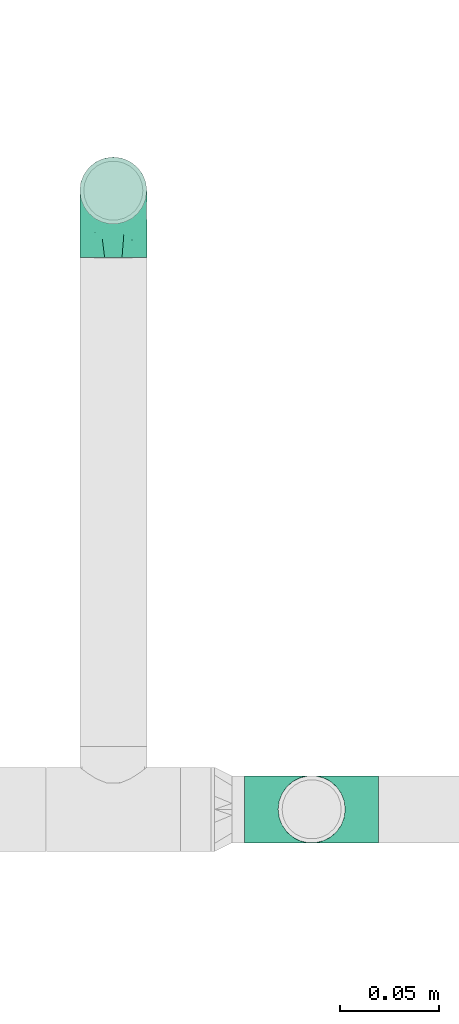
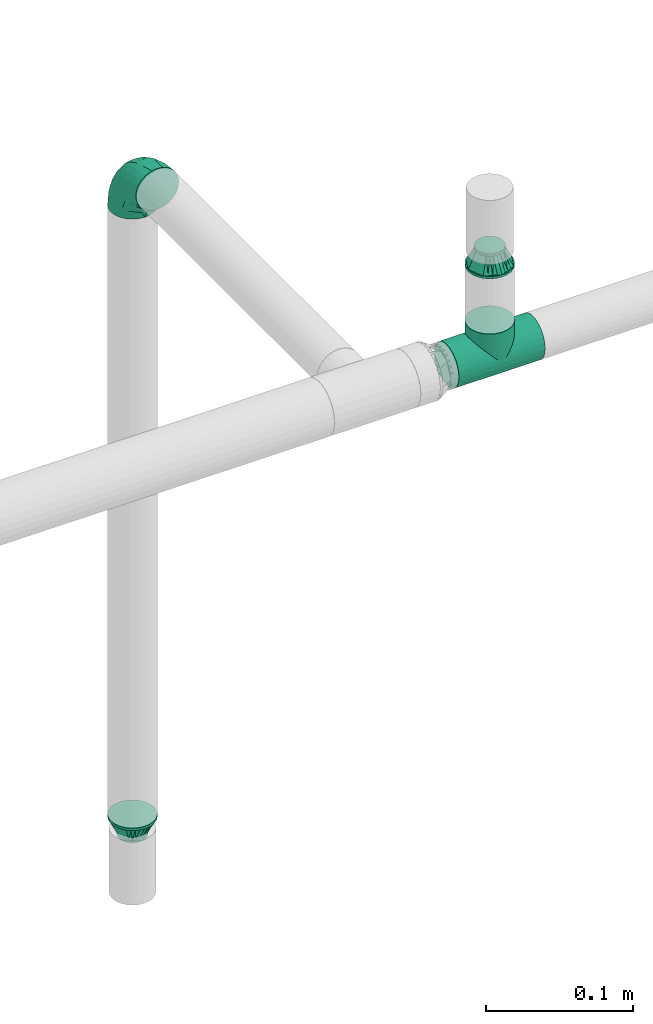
# One storey, part 41 of 51: 4 flow fittings.
"""IFC2X3 building model written with IfcOpenShell, lengths in millimetres."""

from ifc_helpers import new_model, entity, si_unit, converted_unit, derived_unit, direction, frame, origin_with_axes, place, context, subcontext, project, spatial, open_shell, surface_model, source, transform, mapped, type_object, element, save


model = new_model("IFC2X3")

# Units and contexts
model_context = context("Model", 3, precision=0.01, world=frame((0.0, 4.29681676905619e-09, 0.0)), true_north=direction((4.01073788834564e-13, 1.0)))
plan_context = context("Plan", 3, precision=0.01, world=frame((0.0, 4.29681676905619e-09, 0.0)), true_north=direction((4.01073788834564e-13, 1.0)))
body_context = subcontext(model_context, "Body", "Model", "MODEL_VIEW")
ifc_project = project(units=[converted_unit("PLANEANGLEUNIT", "DEGREE", entity("IfcPositiveLengthMeasure", 0.0174532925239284), si_unit("PLANEANGLEUNIT", "RADIAN"), dimensions=[0, 0, 0, 0, 0, 0, 0]), si_unit("AREAUNIT", "SQUARE_METRE"), si_unit("LENGTHUNIT", "METRE", prefix="MILLI"), si_unit("MASSUNIT", "GRAM", prefix="KILO"), si_unit("POWERUNIT", "WATT"), si_unit("PRESSUREUNIT", "PASCAL"), si_unit("FORCEUNIT", "NEWTON", prefix="KILO"), si_unit("ELECTRICVOLTAGEUNIT", "VOLT"), si_unit("ELECTRICCURRENTUNIT", "AMPERE"), si_unit("THERMODYNAMICTEMPERATUREUNIT", "DEGREE_CELSIUS"), si_unit("TIMEUNIT", "SECOND"), si_unit("VOLUMEUNIT", "CUBIC_METRE"), derived_unit("LINEARVELOCITYUNIT", [(si_unit("LENGTHUNIT", "METRE"), 1), (si_unit("TIMEUNIT", "SECOND"), -1)]), derived_unit("VOLUMETRICFLOWRATEUNIT", [(si_unit("VOLUMEUNIT", "CUBIC_METRE"), 1), (si_unit("TIMEUNIT", "SECOND"), -1)]), derived_unit("THERMALTRANSMITTANCEUNIT", [(si_unit("POWERUNIT", "WATT"), 1), (si_unit("THERMODYNAMICTEMPERATUREUNIT", "KELVIN"), -1), (si_unit("AREAUNIT", "SQUARE_METRE"), -1)]), derived_unit("SOUNDPRESSUREUNIT", [(si_unit("PRESSUREUNIT", "PASCAL"), 1)])], contexts=[model_context, plan_context])

# Site, building, storey
site_placement = place(None, frame((0.0, -4.29681676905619e-09, 0.0), z_axis=(0.0, 0.0, 1.0), x_axis=(1.0, 0.0, 0.0)))
site = spatial("IfcSite", under=ifc_project, at=site_placement, Name="ENGM", CompositionType="ELEMENT")
building_placement = place(site_placement, frame((0.0, 4.29681676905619e-09, 0.0), z_axis=(0.0, 0.0, 1.0), x_axis=(1.0, 0.0, 0.0)))
building = spatial("IfcBuilding", under=site, at=building_placement, Name="TH", CompositionType="ELEMENT")
storey_placement = place(building_placement, frame((0.0, 0.0, 210200.0), z_axis=(0.0, 0.0, 1.0), x_axis=(1.0, 0.0, 0.0)))
storey = spatial("IfcBuildingStorey", under=building, at=storey_placement, Name="Nivå F - 0,7 m", CompositionType="ELEMENT", Elevation=210200.0)

# Flow fittings
pipe_fitting_type_1 = type_object("IfcPipeFittingType", Name="magi_pipe_fe_elbow_short_001", PredefinedType="BEND")
shared_shape_1 = source(origin_with_axes(), body_context, "Body", "SurfaceModel", [
    surface_model("IfcShellBasedSurfaceModel", [(-33.8, 8.45, -14.63583), (-33.8, 4.37404, -16.32415), (-33.8, 11.9501, -11.9501), (-33.8, -11.9501, -11.9501), (-33.8, -14.63583, -8.45), (-33.8, -8.45, -14.63583), (-33.8, 0.0, -16.9), (-33.8, -4.37404, -16.32415), (-33.8, -4.37404, 16.32415), (-33.8, 0.0, 16.9), (-33.8, -8.45, 14.63583), (-33.8, 16.32415, -4.37404), (-33.8, 14.63583, -8.45), (-33.8, -16.32415, -4.37404), (-33.8, -16.9, 0.0), (-33.8, -16.32415, 4.37404), (-33.8, 11.9501, 11.9501), (-33.8, 14.63583, 8.45), (-33.8, 16.32415, 4.37404), (-33.8, 4.37404, 16.32415), (-33.8, 8.45, 14.63583), (-33.8, -14.63583, 8.45), (-33.8, -11.9501, 11.9501), (-33.8, 16.9, 0.0), (-11.9501, 33.8, -11.9501), (0.0, 33.8, -16.9), (-4.37404, 33.8, -16.32415), (-8.45, 33.8, -14.63583), (-14.63583, 33.8, -8.45), (-16.32415, 33.8, -4.37404), (14.63583, 33.8, -8.45), (8.45, 33.8, 14.63583), (16.32415, 33.8, -4.37404), (8.45, 33.8, -14.63583), (11.9501, 33.8, -11.9501), (4.37404, 33.8, -16.32415), (16.32415, 33.8, 4.37404), (16.9, 33.8, 0.0), (-11.9501, 33.8, 11.9501), (-16.32415, 33.8, 4.37404), (-14.63583, 33.8, 8.45), (-8.45, 33.8, 14.63583), (-4.37404, 33.8, 16.32415), (11.9501, 33.8, 11.9501), (14.63583, 33.8, 8.45), (0.0, 33.8, 16.9), (4.37404, 33.8, 16.32415), (-16.9, 33.8, 0.0), (-24.79389, -13.12945, 9.48721), (-22.19287, -9.75018, 12.59315), (-24.09897, -14.97035, 0.0), (-14.93934, -10.76256, 8.5297), (-22.46095, -14.75051, 5.27077), (14.75051, 22.46094, 5.27077), (11.9251, 13.23888, 4.33236), (13.04069, 14.39795, 0.0), (7.71387, 13.68847, 11.55891), (9.75018, 22.19287, 12.59315), (4.10169, 13.0571, 14.04018), (-24.84007, -6.39063, 15.2048), (-25.81779, -2.23879, 16.61097), (-23.66549, 2.59054, 16.87119), (-26.50418, 14.06512, 11.08152), (-24.21253, 17.66365, 7.72657), (-29.58514, 15.86957, 7.00283), (-6.17382, -7.5455, 0.0), (-13.23888, -11.9251, 4.33236), (-14.39795, -13.04069, 0.0), (-17.81434, 18.87373, 11.97104), (-6.30846, 29.15138, 15.82987), (-2.31622, 25.28002, 16.85849), (-29.23923, 10.23435, 13.77053), (-1.45439, -2.85688, 7.61475), (-0.28326, 0.34872, 10.09509), (-5.74484, -4.04709, 10.4122), (-4.41137, 11.31918, 16.59407), (-8.39727, 3.10034, 15.7812), (-1.72649, 9.1306, 15.53089), (-17.39909, 24.75344, 7.64977), (-26.19233, 20.0512, 0.0), (-28.14518, 17.29657, 4.25857), (-26.05147, 6.6281, 15.96447), (-5.87354, 16.61944, 16.86968), (-12.51807, 12.51807, 16.48937), (-10.06312, 7.38516, 16.81295), (-3.01882, 3.01882, 13.81718), (-13.0571, -4.10169, 14.04018), (-16.82553, -0.15166, 16.38038), (10.76256, 14.93934, 8.5297), (13.12945, 24.79389, 9.48721), (6.39063, 24.84007, 15.2048), (2.23879, 25.81779, 16.61097), (-13.68847, -7.71387, 11.55891), (14.97035, 24.09897, 0.0), (-7.30894, 22.89991, 16.09489), (-10.67958, 26.17414, 14.008), (-12.78295, 18.26924, 15.06066), (-13.88562, 22.45231, 12.93244), (-18.04944, 15.16501, 14.04434), (-23.11658, 20.08178, 4.02986), (-21.84989, 21.84989, 0.0), (-18.55817, 25.48277, 3.93065), (-13.95142, 26.94732, 11.03289), (-18.57098, 7.23906, 16.59756), (-16.58335, 4.14122, 16.89279), (-17.96666, 11.46709, 15.63151), (-9.84453, 17.54304, 16.18938), (0.15166, 16.82553, 16.38038), (-23.27207, 11.47201, 14.23154), (3.84842, 5.86994, 10.70473), (-8.0212, -7.54413, 7.93275), (1.00345, -2.19508, 4.57414), (5.13203, 3.01004, 5.90201), (5.24161, 1.7543, 2.53265), (8.70457, 7.04947, 3.99182), (-20.0512, 26.19233, 0.0), (8.4852, 8.76699, 7.09296), (-4.55488, -6.72064, 4.90681), (2.05031, -2.05031, 0.0), (7.5455, 6.17382, 0.0), (-26.75399, 2.1369, -16.845), (-14.61995, 24.73803, -11.27736), (-28.45274, -13.45335, -9.81895), (-26.00469, 6.63555, -15.96645), (-23.06726, 20.04573, -4.26202), (-13.80647, -4.26506, -14.17873), (-14.67501, -0.21081, -16.07388), (-6.7902, -0.2828, -13.8478), (-24.53586, 11.08096, -14.13417), (-26.72048, 14.00837, -11.05776), (10.0967, 24.44989, -12.75976), (5.83237, 21.40218, -15.03047), (6.66249, 28.54238, -15.38093), (-20.38182, 15.48705, -12.74596), (12.53268, 21.23441, -9.15363), (12.54494, 15.67504, -5.54878), (9.7522, 12.89279, -8.66343), (-15.65186, 19.64213, -13.01327), (-12.03528, 20.66498, -14.67665), (-15.61907, 15.61906, -14.83879), (-25.56551, -15.26206, 0.0), (-24.65452, -15.12934, -5.50955), (13.45335, 28.45274, -9.81895), (15.12934, 24.65452, -5.50955), (-7.35442, -8.31014, -5.65563), (-15.67504, -12.54494, -5.54878), (-24.44989, -10.0967, -12.75976), (0.16522, 0.41303, -9.71728), (-5.70658, -5.33066, -8.89288), (-5.13869, -2.37198, -11.53565), (-21.23441, -12.53268, -9.15363), (0.71146, 7.93863, -14.09382), (0.21081, 14.67501, -16.07388), (3.49291, 14.42772, -14.76381), (-24.89911, -2.13088, -16.591), (-28.54238, -6.66249, -15.38093), (-18.44386, -7.71663, -13.26957), (2.13088, 24.89911, -16.591), (-28.64342, 17.44413, -2.89318), (1.70017, -1.28722, -5.09504), (-16.57067, 26.81947, -7.36596), (-17.69055, 27.4263, -3.76405), (-12.89279, -9.7522, -8.66343), (-5.96611, 5.96611, -15.95814), (-20.53709, 20.09345, -8.28985), (-2.1369, 26.75399, -16.845), (-6.89872, 24.58781, -16.02578), (-10.60739, 26.53157, -13.98044), (-21.40218, -5.83237, -15.03047), (2.93192, 5.89627, -11.55917), (6.89393, 12.61842, -11.82233), (5.58056, 5.95325, -8.79455), (-3.99512, 18.61798, -16.89635), (8.31014, 7.35442, -5.65563), (-9.1383, 9.86148, -16.89041), (-9.99983, 16.02119, -16.39699), (-16.68576, 9.78031, -16.34199), (-27.01915, 16.61158, -7.12979), (15.26206, 25.56551, 0.0), (-18.61798, 3.99512, -16.89635), (-19.37495, 27.82495, 0.0), (-12.61842, -6.89393, -11.82233), (-18.84705, 19.14018, -10.96545)], [open_shell([[[0, 1, 2]], [[3, 4, 5]], [[6, 7, 5]], [[8, 9, 10]], [[1, 6, 2]], [[11, 12, 2]], [[4, 2, 6]], [[2, 13, 10]], [[5, 4, 6]], [[2, 4, 13]], [[14, 15, 13]], [[11, 2, 16]], [[11, 17, 18]], [[11, 16, 17]], [[19, 20, 16]], [[16, 2, 10]], [[19, 16, 10]], [[21, 22, 15]], [[22, 13, 15]], [[22, 10, 13]], [[10, 9, 19]], [[11, 18, 23]], [[24, 25, 26]], [[24, 26, 27]], [[24, 28, 29]], [[25, 24, 30]], [[31, 32, 24]], [[33, 30, 34]], [[33, 35, 25]], [[25, 30, 33]], [[32, 30, 24]], [[32, 36, 37]], [[38, 24, 29]], [[39, 40, 29]], [[40, 38, 29]], [[38, 41, 42]], [[38, 31, 24]], [[31, 38, 42]], [[36, 43, 44]], [[36, 32, 43]], [[31, 45, 46]], [[32, 31, 43]], [[42, 45, 31]], [[39, 29, 47]], [[22, 48, 49]], [[15, 14, 50]], [[51, 48, 52]], [[53, 54, 55]], [[48, 22, 21]], [[15, 52, 21]], [[56, 57, 58]], [[49, 10, 22]], [[49, 59, 10]], [[9, 60, 61]], [[62, 63, 64]], [[65, 66, 67]], [[57, 43, 31]], [[62, 68, 63]], [[42, 69, 70]], [[20, 71, 16]], [[8, 60, 9]], [[72, 73, 74]], [[75, 76, 77]], [[16, 62, 17]], [[40, 39, 78]], [[79, 23, 80]], [[64, 18, 17]], [[9, 61, 19]], [[19, 81, 20]], [[82, 83, 84]], [[74, 85, 86]], [[59, 86, 87]], [[88, 89, 57]], [[90, 31, 46]], [[44, 53, 36]], [[46, 45, 91]], [[54, 53, 88]], [[44, 89, 53]], [[92, 86, 49]], [[89, 44, 43]], [[10, 59, 8]], [[53, 55, 93]], [[93, 36, 53]], [[66, 52, 67]], [[94, 82, 70]], [[95, 96, 94]], [[97, 98, 96]], [[79, 99, 100]], [[41, 38, 95]], [[101, 100, 99]], [[68, 78, 63]], [[42, 41, 69]], [[23, 18, 80]], [[95, 94, 69]], [[78, 101, 99]], [[38, 102, 95]], [[70, 45, 42]], [[97, 95, 102]], [[15, 50, 52]], [[90, 57, 31]], [[57, 90, 58]], [[81, 19, 61]], [[103, 104, 84]], [[105, 81, 103]], [[38, 40, 102]], [[106, 96, 83]], [[94, 106, 82]], [[91, 70, 107]], [[71, 62, 16]], [[62, 108, 98]], [[86, 59, 49]], [[67, 52, 50]], [[60, 59, 87]], [[92, 49, 51]], [[86, 85, 76]], [[91, 90, 46]], [[37, 36, 93]], [[107, 77, 58]], [[107, 58, 90]], [[58, 85, 109]], [[110, 74, 92]], [[72, 74, 110]], [[66, 51, 52]], [[72, 111, 112]], [[113, 114, 112]], [[56, 88, 57]], [[52, 48, 21]], [[49, 48, 51]], [[57, 89, 43]], [[53, 89, 88]], [[103, 81, 61]], [[71, 81, 108]], [[18, 64, 80]], [[63, 78, 99]], [[47, 115, 101]], [[101, 115, 100]], [[40, 78, 102]], [[68, 102, 78]], [[97, 96, 95]], [[105, 98, 108]], [[103, 84, 83]], [[107, 70, 82]], [[76, 84, 87]], [[82, 84, 75]], [[70, 91, 45]], [[90, 91, 107]], [[59, 60, 8]], [[61, 60, 87]], [[73, 85, 74]], [[109, 112, 116]], [[103, 61, 104]], [[105, 103, 83]], [[96, 105, 83]], [[81, 105, 108]], [[96, 98, 105]], [[62, 98, 68]], [[61, 87, 104]], [[87, 84, 104]], [[86, 76, 87]], [[77, 76, 85]], [[58, 77, 85]], [[75, 77, 107]], [[82, 75, 107]], [[76, 75, 84]], [[81, 71, 20]], [[62, 71, 108]], [[95, 69, 41]], [[70, 69, 94]], [[62, 64, 17]], [[80, 63, 99]], [[63, 80, 64]], [[80, 99, 79]], [[66, 65, 117]], [[110, 66, 117]], [[112, 114, 116]], [[118, 117, 65]], [[110, 92, 51]], [[112, 111, 113]], [[119, 55, 54]], [[74, 86, 92]], [[58, 109, 56]], [[116, 56, 109]], [[66, 110, 51]], [[72, 110, 117]], [[111, 72, 117]], [[73, 112, 109]], [[117, 118, 111]], [[113, 111, 118]], [[118, 119, 113]], [[114, 119, 54]], [[119, 114, 113]], [[116, 54, 88]], [[54, 116, 114]], [[116, 88, 56]], [[112, 73, 72]], [[85, 73, 109]], [[78, 39, 101]], [[47, 101, 39]], [[102, 68, 97]], [[97, 68, 98]], [[82, 106, 83]], [[94, 96, 106]], [[1, 120, 6]], [[28, 24, 121]], [[3, 122, 4]], [[0, 123, 1]], [[100, 124, 79]], [[125, 126, 127]], [[128, 2, 129]], [[130, 131, 132]], [[128, 129, 133]], [[134, 135, 136]], [[137, 138, 139]], [[128, 0, 2]], [[67, 140, 141]], [[134, 142, 143]], [[141, 13, 4]], [[144, 65, 145]], [[146, 3, 5]], [[147, 148, 149]], [[145, 141, 150]], [[151, 152, 153]], [[154, 7, 6]], [[5, 155, 146]], [[150, 146, 156]], [[155, 5, 7]], [[143, 135, 134]], [[35, 157, 25]], [[23, 79, 158]], [[148, 159, 144]], [[160, 161, 29]], [[145, 162, 144]], [[163, 152, 151]], [[29, 28, 160]], [[121, 164, 160]], [[33, 34, 130]], [[25, 165, 26]], [[26, 165, 166]], [[142, 34, 30]], [[24, 27, 167]], [[124, 161, 164]], [[157, 35, 132]], [[155, 154, 168]], [[123, 0, 128]], [[169, 170, 171]], [[172, 157, 152]], [[26, 166, 27]], [[132, 35, 33]], [[142, 130, 34]], [[168, 154, 126]], [[136, 135, 173]], [[133, 137, 139]], [[2, 12, 129]], [[170, 131, 130]], [[30, 32, 143]], [[172, 174, 175]], [[176, 123, 128]], [[158, 177, 11]], [[135, 55, 119]], [[167, 27, 166]], [[175, 166, 172]], [[137, 167, 138]], [[122, 141, 4]], [[140, 14, 13]], [[32, 37, 178]], [[170, 130, 134]], [[152, 157, 131]], [[165, 157, 172]], [[153, 170, 151]], [[152, 163, 174]], [[168, 125, 156]], [[122, 146, 150]], [[120, 154, 6]], [[179, 174, 126]], [[179, 126, 154]], [[126, 163, 127]], [[162, 145, 150]], [[140, 13, 141]], [[32, 178, 143]], [[55, 143, 178]], [[177, 129, 12]], [[128, 133, 139]], [[176, 128, 139]], [[120, 123, 179]], [[121, 160, 28]], [[161, 100, 180]], [[166, 175, 138]], [[121, 24, 167]], [[161, 47, 29]], [[79, 124, 158]], [[124, 164, 177]], [[161, 124, 100]], [[136, 171, 170]], [[127, 163, 151]], [[147, 171, 159]], [[148, 144, 162]], [[127, 151, 169]], [[127, 181, 125]], [[129, 177, 164]], [[12, 11, 177]], [[159, 65, 144]], [[67, 141, 145]], [[143, 55, 135]], [[135, 119, 173]], [[123, 120, 1]], [[154, 120, 179]], [[157, 165, 25]], [[166, 165, 172]], [[172, 152, 174]], [[176, 139, 175]], [[126, 174, 163]], [[176, 174, 179]], [[174, 176, 175]], [[123, 176, 179]], [[150, 181, 162]], [[127, 149, 181]], [[181, 148, 162]], [[159, 148, 147]], [[171, 136, 173]], [[170, 134, 136]], [[159, 171, 173]], [[171, 147, 169]], [[169, 147, 149]], [[151, 170, 169]], [[164, 182, 129]], [[182, 121, 137]], [[181, 149, 148]], [[169, 149, 127]], [[182, 137, 133]], [[167, 137, 121]], [[166, 138, 167]], [[175, 139, 138]], [[129, 182, 133]], [[121, 182, 164]], [[161, 160, 164]], [[47, 161, 180]], [[177, 158, 124]], [[23, 158, 11]], [[130, 132, 33]], [[157, 132, 131]], [[143, 142, 30]], [[130, 142, 134]], [[154, 155, 7]], [[146, 155, 168]], [[146, 122, 3]], [[141, 122, 150]], [[152, 131, 153]], [[159, 119, 118]], [[67, 145, 65]], [[170, 153, 131]], [[119, 159, 173]], [[159, 118, 65]], [[156, 125, 181]], [[126, 125, 168]], [[150, 156, 181]], [[168, 156, 146]]])]),
])
flow_fitting_1_placement = place(storey_placement, frame((903700.0, 486512.90642, 2949.88965), z_axis=(1.0, 0.0, 0.0), x_axis=(0.0, 0.0, 1.0)))
element("IfcFlowFitting", 1, at=flow_fitting_1_placement, inside=storey, type_object=pipe_fitting_type_1, Name="magi_pipe_fe_elbow_short_001", context=body_context, shape_type="MappedRepresentation", body=[
    mapped(shared_shape_1, transform((0.0, 0.0, 0.0), scale=1.0)),
])
pipe_fitting_type_2 = type_object("IfcPipeFittingType", Name="magi_pipe_fe_reducer_centric_short_NOR", PredefinedType="TRANSITION")
shared_shape_2 = source(origin_with_axes(), body_context, "Body", "SurfaceModel", [
    surface_model("IfcShellBasedSurfaceModel", [(14.4, 4.37404, -16.32415), (14.4, 8.45, -14.63583), (14.4, 11.9501, -11.9501), (14.4, -8.45, -14.63583), (14.4, 16.32415, -4.37404), (14.4, 16.32415, 4.37404), (14.4, 14.63583, -8.45), (14.4, 0.0, -16.9), (14.4, -4.37404, -16.32415), (14.4, -11.9501, -11.9501), (14.4, -16.32415, -4.37404), (14.4, -14.63583, -8.45), (14.4, -16.32415, 4.37404), (14.4, 16.9, 0.0), (14.4, 14.63583, 8.45), (14.4, 11.9501, 11.9501), (14.4, 4.37404, 16.32415), (14.4, 8.45, 14.63583), (14.4, 0.0, 16.9), (14.4, -14.63583, 8.45), (14.4, -16.9, 0.0), (14.4, -8.45, 14.63583), (14.4, -11.9501, 11.9501), (14.4, -4.37404, 16.32415), (12.4, 4.37404, 16.32415), (12.4, -14.63583, 8.45), (12.4, 0.0, 16.9), (12.4, 16.32415, 4.37404), (12.4, 8.45, 14.63583), (12.4, 11.9501, 11.9501), (12.4, 14.63583, 8.45), (12.4, -8.45, 14.63583), (12.4, -11.9501, 11.9501), (12.4, -4.37404, 16.32415), (12.4, -16.32415, 4.37404), (12.4, -16.32415, -4.37404), (12.4, -16.9, 0.0), (12.4, -8.45, -14.63583), (12.4, 16.32415, -4.37404), (12.4, 11.9501, -11.9501), (12.4, 14.63583, -8.45), (12.4, 8.45, -14.63583), (12.4, 4.37404, -16.32415), (12.4, 0.0, -16.9), (12.4, -11.9501, -11.9501), (12.4, -14.63583, -8.45), (12.4, -4.37404, -16.32415), (12.4, 16.9, 0.0), (-2.0, 10.33541, 2.76936), (-2.0, 0.0, 10.7), (-2.0, 2.76936, 10.33541), (-2.0, 7.56604, 7.56604), (-2.0, 5.35, 9.26647), (-2.0, 9.26647, 5.35), (-2.0, -9.26647, 5.35), (-2.0, -2.76936, 10.33541), (-2.0, -7.56604, 7.56604), (-2.0, -5.35, 9.26647), (-2.0, -10.33541, 2.76936), (-2.0, -10.33541, -2.76936), (-2.0, -10.7, 0.0), (-2.0, 10.33541, -2.76936), (-2.0, 7.56604, -7.56604), (-2.0, 9.26647, -5.35), (-2.0, 5.35, -9.26647), (-2.0, -5.35, -9.26647), (-2.0, 2.76936, -10.33541), (-2.0, -7.56604, -7.56604), (-2.0, -9.26647, -5.35), (-2.0, 0.0, -10.7), (-2.0, -2.76936, -10.33541), (-2.0, 10.7, 0.0), (0.0, 5.35, -9.26647), (0.0, 0.0, -10.7), (0.0, 2.76936, -10.33541), (0.0, 10.33541, -2.76936), (0.0, 7.56604, -7.56604), (0.0, -5.35, -9.26647), (0.0, 9.26647, -5.35), (0.0, -9.26647, 5.35), (0.0, -2.76936, -10.33541), (0.0, -7.56604, -7.56604), (0.0, -10.33541, -2.76936), (0.0, -9.26647, -5.35), (0.0, 10.33541, 2.76936), (0.0, 10.7, 0.0), (0.0, 9.26647, 5.35), (0.0, 7.56604, 7.56604), (0.0, 2.76936, 10.33541), (0.0, 0.0, 10.7), (0.0, 5.35, 9.26647), (0.0, -10.33541, 2.76936), (0.0, -10.7, 0.0), (0.0, -7.56604, 7.56604), (0.0, -2.76936, 10.33541), (0.0, -5.35, 9.26647), (0.0, -9.3625, -2.31662), (12.4, -14.42505, -5.97505), (12.4, -15.66253, -2.98753), (0.0, 6.6875, -6.94985), (12.4, 8.96258, -13.18758), (0.0, -6.6875, -6.94985), (12.4, -8.96258, -13.18758), (0.0, 9.3625, -2.31662), (12.4, 15.66253, -2.98753), (12.4, 14.42505, -5.97505), (12.4, -5.97505, -14.42505), (12.4, 5.97505, -14.42505), (0.0, 2.675, -9.26647), (12.4, 13.18758, -8.96258), (0.0, -2.675, -9.26647), (12.4, -13.18758, -8.96258), (0.0, -8.025, -4.63324), (12.4, 2.98753, -15.66253), (0.0, 0.0, -9.26647), (12.4, -2.98753, -15.66253), (0.0, 8.025, -4.63324), (0.0, 9.3625, 2.31662), (12.4, 14.42505, 5.97505), (12.4, 15.66253, 2.98753), (0.0, -6.6875, 6.94985), (12.4, -8.96258, 13.18758), (0.0, 6.6875, 6.94985), (12.4, 8.96258, 13.18758), (0.0, -9.3625, 2.31662), (12.4, -15.66253, 2.98753), (12.4, -14.42505, 5.97505), (12.4, 5.97505, 14.42505), (12.4, -5.97505, 14.42505), (0.0, -2.675, 9.26647), (12.4, -13.18758, 8.96258), (0.0, 2.675, 9.26647), (12.4, 13.18758, 8.96258), (0.0, 8.025, 4.63324), (12.4, -2.98753, 15.66253), (0.0, 0.0, 9.26647), (12.4, 2.98753, 15.66253), (0.0, -8.025, 4.63324)], [open_shell([[[0, 1, 2]], [[3, 0, 2]], [[2, 4, 5]], [[4, 2, 6]], [[2, 5, 3]], [[7, 3, 8]], [[7, 0, 3]], [[9, 10, 11]], [[10, 9, 3]], [[3, 12, 10]], [[5, 4, 13]], [[5, 14, 15]], [[5, 15, 16]], [[16, 12, 3]], [[16, 15, 17]], [[12, 16, 18]], [[18, 19, 12]], [[20, 10, 12]], [[19, 21, 22]], [[19, 18, 21]], [[21, 18, 23]], [[3, 5, 16]], [[24, 25, 26]], [[27, 24, 28]], [[29, 30, 27]], [[29, 27, 28]], [[25, 24, 27]], [[31, 25, 32]], [[31, 33, 26]], [[26, 25, 31]], [[34, 25, 27]], [[34, 35, 36]], [[34, 27, 37]], [[27, 38, 39]], [[39, 38, 40]], [[39, 41, 42]], [[37, 27, 39]], [[42, 43, 39]], [[35, 44, 45]], [[44, 35, 37]], [[37, 43, 46]], [[35, 34, 37]], [[39, 43, 37]], [[38, 27, 47]], [[35, 10, 36]], [[45, 11, 35]], [[3, 44, 37]], [[45, 44, 9]], [[8, 37, 46]], [[35, 11, 10]], [[10, 20, 36]], [[8, 3, 37]], [[9, 44, 3]], [[9, 11, 45]], [[7, 8, 46]], [[46, 43, 7]], [[42, 0, 43]], [[41, 1, 42]], [[6, 39, 40]], [[41, 39, 2]], [[4, 40, 38]], [[41, 2, 1]], [[1, 0, 42]], [[13, 4, 38]], [[6, 40, 4]], [[6, 2, 39]], [[47, 13, 38]], [[43, 0, 7]], [[27, 5, 47]], [[30, 14, 27]], [[17, 29, 28]], [[30, 29, 15]], [[16, 28, 24]], [[27, 14, 5]], [[5, 13, 47]], [[16, 17, 28]], [[15, 29, 17]], [[15, 14, 30]], [[18, 16, 24]], [[24, 26, 18]], [[33, 23, 26]], [[31, 21, 33]], [[19, 32, 25]], [[31, 32, 22]], [[12, 25, 34]], [[31, 22, 21]], [[21, 23, 33]], [[20, 12, 34]], [[19, 25, 12]], [[19, 22, 32]], [[36, 20, 34]], [[26, 23, 18]], [[48, 49, 50]], [[51, 50, 52]], [[51, 53, 48]], [[51, 48, 50]], [[49, 48, 54]], [[55, 56, 57]], [[56, 55, 54]], [[58, 59, 60]], [[54, 55, 49]], [[58, 54, 59]], [[54, 48, 61]], [[59, 54, 61]], [[62, 61, 63]], [[59, 62, 64]], [[61, 62, 59]], [[65, 64, 66]], [[59, 67, 68]], [[67, 59, 65]], [[65, 69, 70]], [[65, 59, 64]], [[66, 69, 65]], [[61, 48, 71]], [[72, 73, 74]], [[75, 72, 76]], [[77, 72, 75]], [[75, 76, 78]], [[79, 77, 75]], [[73, 77, 80]], [[73, 72, 77]], [[81, 82, 83]], [[82, 81, 77]], [[77, 79, 82]], [[84, 75, 85]], [[84, 86, 87]], [[75, 87, 79]], [[88, 89, 87]], [[88, 87, 90]], [[79, 87, 89]], [[82, 91, 92]], [[79, 91, 82]], [[93, 94, 95]], [[94, 93, 79]], [[89, 94, 79]], [[75, 84, 87]], [[59, 82, 60]], [[68, 83, 59]], [[77, 67, 65]], [[68, 67, 81]], [[80, 65, 70]], [[59, 83, 82]], [[82, 92, 60]], [[80, 77, 65]], [[81, 67, 77]], [[81, 83, 68]], [[73, 80, 70]], [[70, 69, 73]], [[66, 74, 69]], [[64, 72, 66]], [[78, 62, 63]], [[64, 62, 76]], [[75, 63, 61]], [[64, 76, 72]], [[72, 74, 66]], [[85, 75, 61]], [[78, 63, 75]], [[78, 76, 62]], [[71, 85, 61]], [[69, 74, 73]], [[48, 84, 71]], [[53, 86, 48]], [[90, 51, 52]], [[53, 51, 87]], [[88, 52, 50]], [[48, 86, 84]], [[84, 85, 71]], [[88, 90, 52]], [[87, 51, 90]], [[87, 86, 53]], [[89, 88, 50]], [[50, 49, 89]], [[55, 94, 49]], [[57, 95, 55]], [[79, 56, 54]], [[57, 56, 93]], [[91, 54, 58]], [[57, 93, 95]], [[95, 94, 55]], [[92, 91, 58]], [[79, 54, 91]], [[79, 93, 56]], [[60, 92, 58]], [[49, 94, 89]], [[29, 26, 39]], [[39, 47, 29]], [[36, 26, 32]], [[36, 44, 43]], [[43, 39, 36]], [[36, 39, 26]], [[92, 95, 77]], [[85, 95, 90]], [[85, 72, 77]], [[85, 77, 95]], [[96, 97, 98]], [[92, 96, 98]], [[99, 100, 72]], [[98, 36, 92]], [[44, 101, 102]], [[101, 77, 102]], [[103, 104, 105]], [[85, 47, 104]], [[77, 106, 102]], [[107, 108, 72]], [[109, 39, 99]], [[106, 77, 110]], [[101, 111, 112]], [[113, 114, 108]], [[100, 99, 39]], [[110, 115, 106]], [[99, 116, 109]], [[100, 107, 72]], [[96, 112, 97]], [[105, 116, 103]], [[85, 104, 103]], [[108, 107, 113]], [[113, 43, 114]], [[116, 105, 109]], [[114, 115, 110]], [[43, 115, 114]], [[111, 101, 44]], [[111, 97, 112]], [[117, 118, 119]], [[85, 117, 119]], [[120, 121, 95]], [[119, 47, 85]], [[29, 122, 123]], [[122, 90, 123]], [[124, 125, 126]], [[92, 36, 125]], [[90, 127, 123]], [[128, 129, 95]], [[130, 32, 120]], [[127, 90, 131]], [[122, 132, 133]], [[134, 135, 129]], [[121, 120, 32]], [[131, 136, 127]], [[120, 137, 130]], [[121, 128, 95]], [[117, 133, 118]], [[126, 137, 124]], [[92, 125, 124]], [[129, 128, 134]], [[134, 26, 135]], [[137, 126, 130]], [[135, 136, 131]], [[26, 136, 135]], [[132, 122, 29]], [[132, 118, 133]]])]),
])
for number, where, z_axis, x_axis, name in (
    (2, (903700.0, 486512.90642, 2396.95199999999), (0.0, -1.0, 0.0), (0.0, 0.0, 1.0), "magi_pipe_fe_reducer_centric_short_NOR"),
    (3, (903800.0, 486201.02538, 3035.04800000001), (0.0, 1.0, 0.0), (0.0, 0.0, -1.0), "magi_pipe_fe_reducer_centric_short_NOR"),
):
    element("IfcFlowFitting", number, at=place(storey_placement, frame(where, z_axis=z_axis, x_axis=x_axis)), inside=storey, type_object=pipe_fitting_type_2, Name=name, context=body_context, shape_type="MappedRepresentation", body=[
        mapped(shared_shape_2, transform((0.0, 0.0, 0.0), scale=1.0)),
    ])
pipe_fitting_type_3 = type_object("IfcPipeFittingType", Name="magi_pipe_fe_tee_centric_90_NOR", PredefinedType="JUNCTION")
shared_shape_3 = source(origin_with_axes(), body_context, "Body", "SurfaceModel", [
    surface_model("IfcShellBasedSurfaceModel", [(-33.8, 4.37404, -16.32415), (-33.8, 0.0, -16.9), (-33.8, 16.32415, -4.37404), (-33.8, 8.45, -14.63583), (-33.8, 11.9501, -11.9501), (-33.8, 14.63583, -8.45), (-33.8, -16.9, 0.0), (-33.8, -11.9501, -11.9501), (-33.8, -14.63583, -8.45), (-33.8, -8.45, -14.63583), (-33.8, -4.37404, -16.32415), (-33.8, -16.32415, -4.37404), (-33.8, 14.63583, 8.45), (-33.8, 16.32415, 4.37404), (-33.8, -8.45, 14.63583), (-33.8, 8.45, 14.63583), (-33.8, 11.9501, 11.9501), (-33.8, 4.37404, 16.32415), (-33.8, 0.0, 16.9), (-33.8, -11.9501, 11.9501), (-33.8, -14.63583, 8.45), (-33.8, -16.32415, 4.37404), (-33.8, -4.37404, 16.32415), (-33.8, 16.9, 0.0), (33.8, 4.37404, -16.32415), (33.8, -16.9, 0.0), (33.8, 0.0, -16.9), (33.8, 14.63583, -8.45), (33.8, 8.45, -14.63583), (33.8, 16.32415, -4.37404), (33.8, 11.9501, -11.9501), (33.8, -16.32415, 4.37404), (33.8, -8.45, -14.63583), (33.8, -4.37404, -16.32415), (33.8, -11.9501, -11.9501), (33.8, -14.63583, -8.45), (33.8, -16.32415, -4.37404), (33.8, 16.32415, 4.37404), (33.8, 8.45, 14.63583), (33.8, 14.63583, 8.45), (33.8, 11.9501, 11.9501), (33.8, -8.45, 14.63583), (33.8, 4.37404, 16.32415), (33.8, -14.63583, 8.45), (33.8, -11.9501, 11.9501), (33.8, 0.0, 16.9), (33.8, -4.37404, 16.32415), (33.8, 16.9, 0.0), (16.28698, -16.28698, 4.51047), (16.9, -16.9, 0.0), (14.62704, -14.62704, 8.4652), (9.47213, -9.47213, 13.99602), (12.26343, -12.26343, 11.62834), (-16.9, -16.9, 0.0), (-16.28698, -16.28698, 4.51047), (-14.62704, -14.62704, 8.4652), (-12.26343, -12.26343, 11.62834), (-9.47213, -9.47213, 13.99602), (-6.42894, -6.42894, 15.62942), (6.42894, -6.42894, 15.62942), (3.24522, -3.24522, 16.58549), (0.0, 0.0, 16.9), (-3.24522, -3.24522, 16.58549), (3.24522, -3.24522, -16.58549), (0.0, 0.0, -16.9), (-3.24522, -3.24522, -16.58549), (-6.42894, -6.42894, -15.62942), (6.42894, -6.42894, -15.62942), (9.47213, -9.47213, -13.99602), (12.26343, -12.26343, -11.62834), (14.62704, -14.62704, -8.4652), (16.28698, -16.28698, -4.51047), (-9.47213, -9.47213, -13.99602), (-12.26343, -12.26343, -11.62834), (-16.28698, -16.28698, -4.51047), (-14.62704, -14.62704, -8.4652), (4.37404, -25.35, -16.32415), (-16.9, -25.35, 0.0), (0.0, -25.35, -16.9), (14.63583, -25.35, -8.45), (8.45, -25.35, -14.63583), (16.32415, -25.35, -4.37404), (11.9501, -25.35, -11.9501), (-11.9501, -25.35, -11.9501), (-8.45, -25.35, -14.63583), (-4.37404, -25.35, -16.32415), (-14.63583, -25.35, -8.45), (-16.32415, -25.35, -4.37404), (16.9, -25.35, 0.0), (8.45, -25.35, 14.63583), (16.32415, -25.35, 4.37404), (14.63583, -25.35, 8.45), (-8.45, -25.35, 14.63583), (11.9501, -25.35, 11.9501), (4.37404, -25.35, 16.32415), (-16.32415, -25.35, 4.37404), (-11.9501, -25.35, 11.9501), (-14.63583, -25.35, 8.45), (0.0, -25.35, 16.9), (-4.37404, -25.35, 16.32415)], [open_shell([[[0, 1, 2]], [[3, 0, 4]], [[0, 2, 5]], [[4, 0, 5]], [[6, 2, 1]], [[7, 8, 9]], [[1, 10, 9]], [[11, 6, 8]], [[1, 9, 8]], [[1, 8, 6]], [[6, 12, 2]], [[12, 13, 2]], [[14, 12, 6]], [[12, 14, 15]], [[16, 12, 15]], [[17, 15, 18]], [[19, 14, 20]], [[21, 20, 14]], [[22, 18, 14]], [[14, 6, 21]], [[14, 18, 15]], [[23, 2, 13]], [[24, 25, 26]], [[27, 24, 28]], [[27, 29, 24]], [[27, 28, 30]], [[31, 25, 24]], [[26, 32, 33]], [[26, 34, 32]], [[35, 25, 36]], [[35, 34, 26]], [[25, 35, 26]], [[24, 29, 31]], [[29, 37, 38]], [[38, 37, 39]], [[38, 31, 29]], [[38, 39, 40]], [[41, 38, 42]], [[43, 41, 44]], [[41, 43, 31]], [[41, 45, 46]], [[41, 31, 38]], [[42, 45, 41]], [[29, 47, 37]], [[31, 43, 48]], [[25, 31, 49]], [[49, 31, 48]], [[43, 50, 48]], [[44, 41, 51]], [[50, 43, 52]], [[51, 52, 44]], [[52, 43, 44]], [[53, 54, 21]], [[53, 21, 6]], [[21, 54, 20]], [[54, 55, 20]], [[56, 57, 19]], [[19, 20, 56]], [[19, 57, 14]], [[56, 20, 55]], [[14, 57, 58]], [[51, 41, 59]], [[60, 45, 61]], [[59, 46, 60]], [[46, 59, 41]], [[60, 46, 45]], [[61, 45, 42]], [[39, 37, 13]], [[16, 38, 40]], [[12, 40, 39]], [[42, 38, 15]], [[23, 37, 47]], [[62, 61, 18]], [[62, 22, 58]], [[22, 62, 18]], [[58, 22, 14]], [[61, 17, 18]], [[42, 17, 61]], [[15, 17, 42]], [[15, 38, 16]], [[12, 16, 40]], [[13, 12, 39]], [[37, 23, 13]], [[5, 27, 30]], [[23, 47, 29]], [[30, 28, 3]], [[27, 2, 29]], [[26, 33, 63]], [[26, 64, 24]], [[64, 26, 63]], [[28, 24, 0]], [[64, 0, 24]], [[4, 30, 3]], [[2, 27, 5]], [[5, 30, 4]], [[2, 23, 29]], [[65, 66, 10]], [[1, 0, 64]], [[1, 65, 10]], [[66, 9, 10]], [[0, 3, 28]], [[1, 64, 65]], [[63, 33, 67]], [[32, 34, 68]], [[69, 68, 34]], [[35, 70, 69]], [[69, 34, 35]], [[32, 68, 67]], [[36, 25, 49]], [[36, 71, 35]], [[71, 36, 49]], [[35, 71, 70]], [[72, 9, 66]], [[72, 7, 9]], [[7, 72, 73]], [[7, 73, 8]], [[74, 53, 11]], [[75, 74, 8]], [[74, 11, 8]], [[11, 53, 6]], [[75, 8, 73]], [[32, 67, 33]], [[76, 77, 78]], [[79, 76, 80]], [[79, 81, 76]], [[79, 80, 82]], [[77, 76, 81]], [[78, 83, 84]], [[84, 85, 78]], [[86, 77, 87]], [[83, 78, 86]], [[77, 86, 78]], [[81, 88, 77]], [[89, 88, 90]], [[89, 90, 91]], [[92, 77, 89]], [[89, 91, 93]], [[92, 89, 94]], [[95, 96, 97]], [[96, 95, 92]], [[92, 98, 99]], [[95, 77, 92]], [[94, 98, 92]], [[89, 77, 88]], [[77, 95, 53]], [[54, 53, 95]], [[97, 96, 56]], [[96, 92, 57]], [[95, 97, 54]], [[58, 92, 99]], [[55, 54, 97]], [[56, 55, 97]], [[58, 57, 92]], [[98, 61, 62]], [[58, 99, 62]], [[56, 96, 57]], [[62, 99, 98]], [[94, 60, 98]], [[89, 59, 94]], [[91, 90, 48]], [[52, 93, 91]], [[93, 51, 89]], [[49, 90, 88]], [[59, 60, 94]], [[51, 59, 89]], [[49, 48, 90]], [[50, 52, 91]], [[48, 50, 91]], [[51, 93, 52]], [[98, 60, 61]], [[88, 81, 49]], [[71, 49, 81]], [[79, 82, 69]], [[82, 80, 68]], [[81, 79, 71]], [[67, 80, 76]], [[70, 71, 79]], [[69, 70, 79]], [[67, 68, 80]], [[78, 64, 63]], [[67, 76, 63]], [[69, 82, 68]], [[63, 76, 78]], [[85, 65, 78]], [[84, 66, 85]], [[86, 87, 74]], [[86, 73, 83]], [[72, 84, 83]], [[53, 87, 77]], [[66, 65, 85]], [[72, 66, 84]], [[53, 74, 87]], [[75, 73, 86]], [[74, 75, 86]], [[72, 83, 73]], [[78, 65, 64]]])]),
])
flow_fitting_2_placement = place(storey_placement, frame((903800.0, 486201.02538, 2949.56988), z_axis=(0.0, -1.0, 0.0), x_axis=(-1.0, 0.0, 0.0)))
element("IfcFlowFitting", 4, at=flow_fitting_2_placement, inside=storey, type_object=pipe_fitting_type_3, Name="magi_pipe_fe_tee_centric_90_NOR", context=body_context, shape_type="MappedRepresentation", body=[
    mapped(shared_shape_3, transform((0.0, 0.0, 0.0), scale=1.0)),
])

save(model, "model.ifc")
